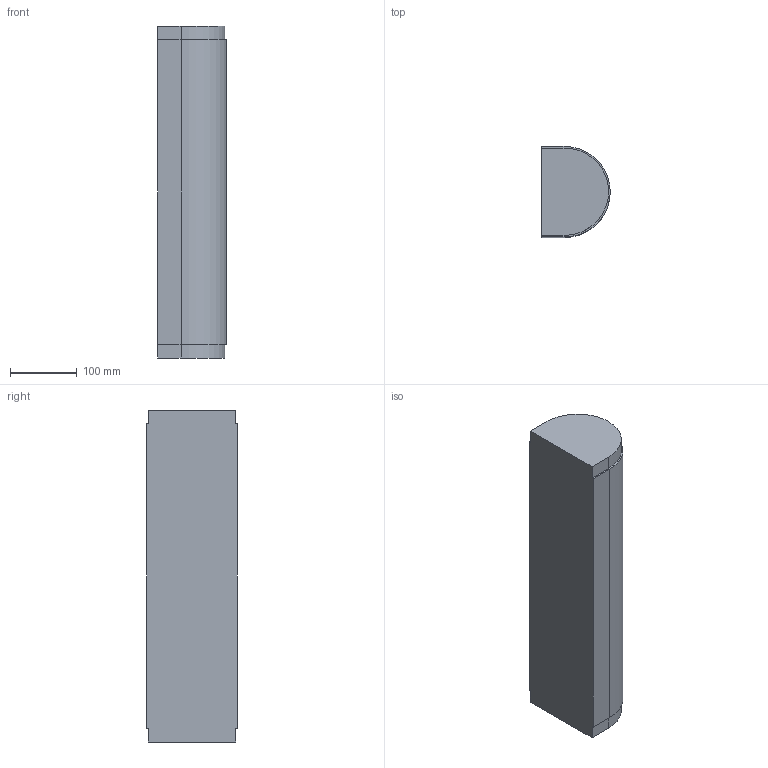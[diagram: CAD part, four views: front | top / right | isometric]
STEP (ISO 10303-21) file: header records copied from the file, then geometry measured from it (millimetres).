
FILE_DESCRIPTION (( 'STEP AP214' ), '1' );
FILE_NAME ('02.150I01.500.N FS-MTC-150 Omloop.STEP', '2013-03-29T10:57:54', ( 'Gebruiker' ), ( '' ), 'SwSTEP 2.0', 'SolidWorks 2012', '' );
FILE_SCHEMA (( 'AUTOMOTIVE_DESIGN' ));
Length unit declared in the file: millimetre
Products named in the file (1): 02.150I01.500.N FS-MTC-150 Omloop
Bounding box: 103 x 136 x 499 mm (x, y, z)
Volume: 5970429 mm3; surface area: 232903.9 mm2
Topology: 1 solids, 1 shells, 14 faces, 36 edges, 24 vertices
Faces by surface type: plane 11, cylinder 3
Entity records: 460 total; most frequent: CARTESIAN_POINT 75, DIRECTION 72, ORIENTED_EDGE 72, EDGE_CURVE 36, LINE 30, VECTOR 30, VERTEX_POINT 24, AXIS2_PLACEMENT_3D 21
